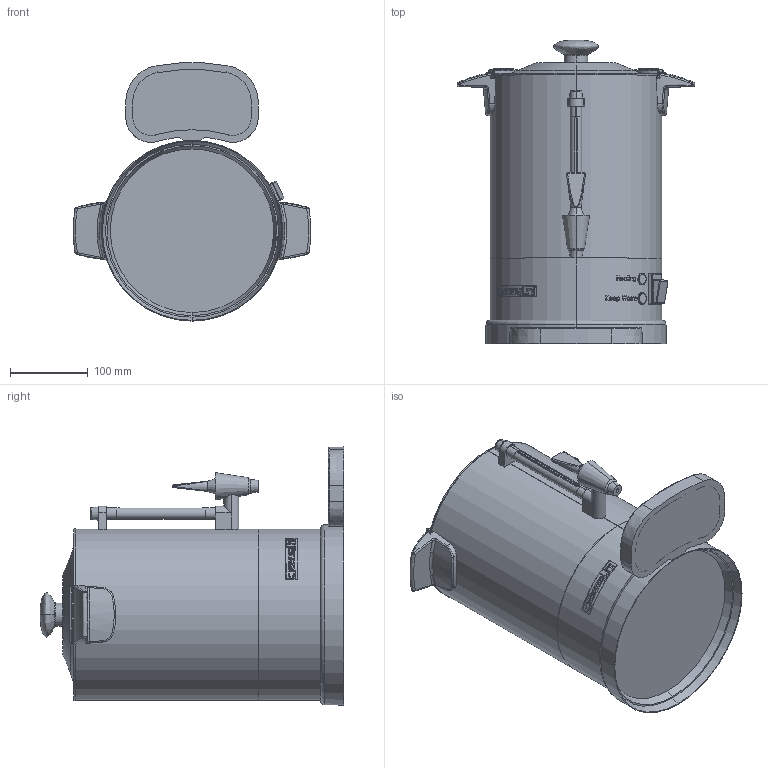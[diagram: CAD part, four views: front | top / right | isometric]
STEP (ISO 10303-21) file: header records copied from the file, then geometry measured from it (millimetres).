
FILE_DESCRIPTION (( 'STEP AP214' ), '1' );
FILE_NAME ('pres-CPC48S.STEP', '2025-01-27T10:03:20', ( '' ), ( '' ), 'SwSTEP 2.0', 'SolidWorks 2025', '' );
FILE_SCHEMA (( 'AUTOMOTIVE_DESIGN' ));
Length unit declared in the file: millimetre
Products named in the file (25): Jauge-perco-48; Nota-KeepWarm-perco; Base-perco; LOGO-CASSELIN-perco; Socle-perco; ASS-jauge-perco-48; Fixation-p1-couvercle-haut; ASS-bac-reception; Corps-perco-48s; Nota-Off-perco; Capuchon-perco; Bouton-commande-perco; couvercle-perco; ASS-base-perco; Nota-heating-perco; ASS-couvercle-perco; pres-CPC48S; Support-haut-perco; ASS-corps-perco-48s; Support-bas-perco; Bouton-perco; Plaque-reception-perco; Nota-On-perco; Bac-reception-perco; Poignée-corps-perco
Assembly tree (27 placements, depth 3):
  pres-CPC48S
    Socle-perco
    ASS-base-perco
      Base-perco
      Bouton-perco
      Bouton-commande-perco  x2
      LOGO-CASSELIN-perco
      Nota-heating-perco
      Nota-KeepWarm-perco
      Nota-On-perco
      Nota-Off-perco
    ASS-corps-perco-48s
      Corps-perco-48s
      Poignée-corps-perco  x2
    ASS-couvercle-perco
      couvercle-perco
      Fixation-p1-couvercle-haut  x2
    ASS-bac-reception
      Bac-reception-perco
      Plaque-reception-perco
    ASS-jauge-perco-48
      Jauge-perco-48
      Capuchon-perco
      Support-haut-perco
      Support-bas-perco
Bounding box: 305.28 x 390 x 331.54 mm (x, y, z)
Volume: 1106166.7 mm3; surface area: 797648.9 mm2
Topology: 42 solids, 42 shells, 935 faces, 2373 edges, 1527 vertices
Faces by surface type: bspline 390, cylinder 223, plane 150, torus 101, cone 65, sphere 6
Entity records: 70667 total; most frequent: CARTESIAN_POINT 50379, ORIENTED_EDGE 4316, DIRECTION 2417, EDGE_CURVE 2158, VERTEX_POINT 1400, B_SPLINE_CURVE_WITH_KNOTS 1326, AXIS2_PLACEMENT_3D 1068, EDGE_LOOP 966
